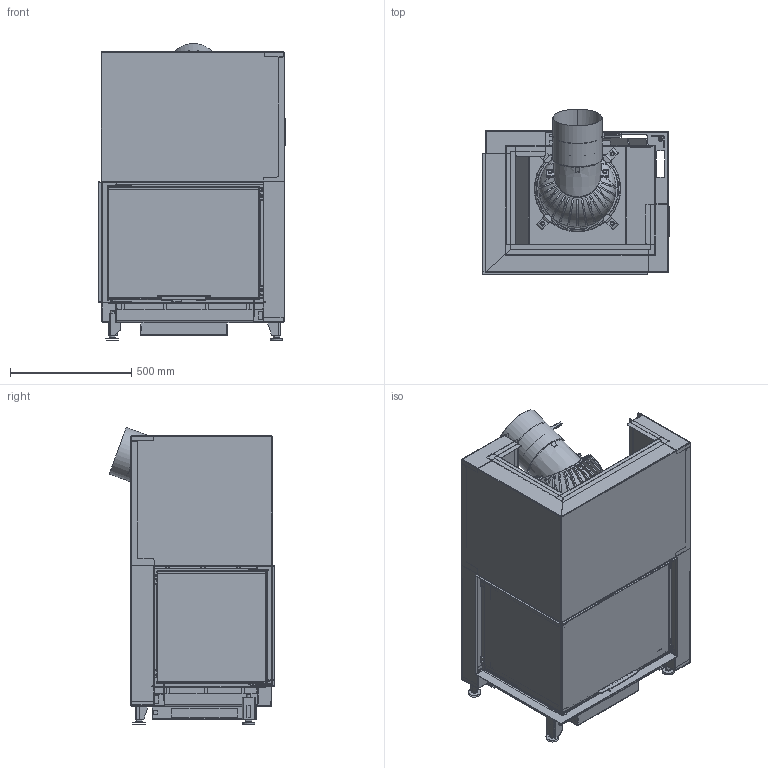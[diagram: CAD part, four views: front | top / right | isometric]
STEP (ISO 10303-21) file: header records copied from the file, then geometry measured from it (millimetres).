
FILE_DESCRIPTION(/* description */ (''),/* implementation_level */ '2;1');
FILE_NAME(/* name */ 'C:\ADSK_DM_WS\CAD_3D\03 Geraete\RII 50x68x50\Zeichnungen\RII_50x68x50_Links_ohne_Mantel_Hinten_Gen2_2022-03322.stp',/* time_stamp */ '2022-08-16T09:29:15+02:00',/* author */ ('TIS'),/* organization */ (''),/* preprocessor_version */ 'ST-DEVELOPER v18.1',/* originating_system */ 'Autodesk Inventor 2022',/* authorisation */ '');
FILE_SCHEMA (('AUTOMOTIVE_DESIGN { 1 0 10303 214 3 1 1 }'));
Products named in the file (7): 2022-03322; 2022-03319; 2022-03318; 2022-03317; 2022-03316; 2022-03315; 2022-03314
Assembly tree (6 placements, depth 2):
  2022-03322
    2022-03319
    2022-03318
    2022-03317
    2022-03316
    2022-03315
    2022-03314
Bounding box: 768.9 x 683.25 x 1226.42 mm (x, y, z)
Volume: 41790467.3 mm3; surface area: 16358629.5 mm2
Topology: 20 solids, 31 shells, 6482 faces, 17566 edges, 11001 vertices
Faces by surface type: plane 3628, cylinder 2406, bspline 221, cone 168, torus 58, sphere 1
Full cylindrical faces by diameter (mm): 3.242 x6, 4.5 x4, 4.8 x7, 6 x5, 7.9 x1, 8 x8, 9 x3, 9.5 x6, 10 x3, 11.192 x3, 11.4 x6, 12 x2, 16 x14, 30 x4, 163 x1, 333 x1, 339 x1
Entity records: 218863 total; most frequent: CARTESIAN_POINT 47113, ORIENTED_EDGE 35078, DIRECTION 34312, EDGE_CURVE 17592, AXIS2_PLACEMENT_3D 11506, LINE 11300, VECTOR 11300, VERTEX_POINT 11007
